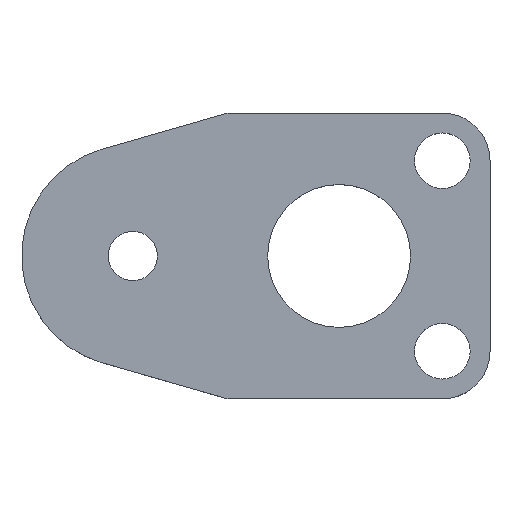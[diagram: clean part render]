
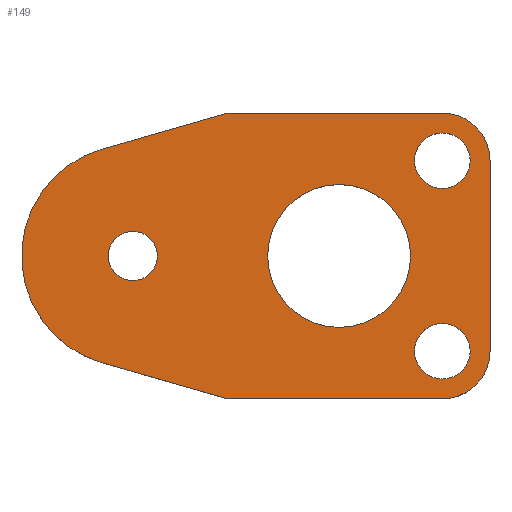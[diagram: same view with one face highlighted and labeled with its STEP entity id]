
A CAD part, top view. The second image highlights one B-rep face of the part: STEP entity #149.
In plain terms, the highlighted planar face has unit normal (0, 0, 1).
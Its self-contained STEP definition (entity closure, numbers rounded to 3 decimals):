
#102=FACE_BOUND('',#194,.T.);
#103=FACE_BOUND('',#195,.T.);
#104=FACE_BOUND('',#196,.T.);
#105=FACE_BOUND('',#197,.T.);
#106=FACE_BOUND('',#198,.T.);
#118=CIRCLE('',#438,6.);
#120=CIRCLE('',#442,6.);
#123=CIRCLE('',#448,14.);
#132=CIRCLE('',#459,3.5);
#133=CIRCLE('',#460,3.5);
#134=CIRCLE('',#461,3.5);
#135=CIRCLE('',#462,3.5);
#136=CIRCLE('',#463,9.);
#137=CIRCLE('',#464,9.);
#138=CIRCLE('',#465,3.1);
#139=CIRCLE('',#466,3.1);
#149=ADVANCED_FACE('',(#102,#103,#104,#105,#106),#164,.T.);
#164=PLANE('',#467);
#194=EDGE_LOOP('',(#255,#256,#257,#258,#259,#260,#261,#262));
#195=EDGE_LOOP('',(#263,#264));
#196=EDGE_LOOP('',(#265,#266));
#197=EDGE_LOOP('',(#267,#268));
#198=EDGE_LOOP('',(#269,#270));
#255=ORIENTED_EDGE('',*,*,#336,.T.);
#256=ORIENTED_EDGE('',*,*,#340,.T.);
#257=ORIENTED_EDGE('',*,*,#343,.T.);
#258=ORIENTED_EDGE('',*,*,#346,.T.);
#259=ORIENTED_EDGE('',*,*,#349,.T.);
#260=ORIENTED_EDGE('',*,*,#352,.T.);
#261=ORIENTED_EDGE('',*,*,#355,.T.);
#262=ORIENTED_EDGE('',*,*,#358,.T.);
#263=ORIENTED_EDGE('',*,*,#367,.T.);
#264=ORIENTED_EDGE('',*,*,#368,.T.);
#265=ORIENTED_EDGE('',*,*,#369,.T.);
#266=ORIENTED_EDGE('',*,*,#370,.T.);
#267=ORIENTED_EDGE('',*,*,#371,.T.);
#268=ORIENTED_EDGE('',*,*,#372,.T.);
#269=ORIENTED_EDGE('',*,*,#373,.T.);
#270=ORIENTED_EDGE('',*,*,#374,.T.);
#304=VERTEX_POINT('',#587);
#305=VERTEX_POINT('',#589);
#308=VERTEX_POINT('',#596);
#310=VERTEX_POINT('',#602);
#312=VERTEX_POINT('',#608);
#314=VERTEX_POINT('',#614);
#316=VERTEX_POINT('',#620);
#318=VERTEX_POINT('',#626);
#327=VERTEX_POINT('',#651);
#328=VERTEX_POINT('',#652);
#329=VERTEX_POINT('',#655);
#330=VERTEX_POINT('',#656);
#331=VERTEX_POINT('',#659);
#332=VERTEX_POINT('',#660);
#333=VERTEX_POINT('',#663);
#334=VERTEX_POINT('',#664);
#336=EDGE_CURVE('',#305,#304,#384,.T.);
#340=EDGE_CURVE('',#304,#308,#388,.T.);
#343=EDGE_CURVE('',#308,#310,#118,.T.);
#346=EDGE_CURVE('',#310,#312,#392,.T.);
#349=EDGE_CURVE('',#312,#314,#120,.T.);
#352=EDGE_CURVE('',#314,#316,#396,.T.);
#355=EDGE_CURVE('',#316,#318,#399,.T.);
#358=EDGE_CURVE('',#318,#305,#123,.T.);
#367=EDGE_CURVE('',#327,#328,#132,.T.);
#368=EDGE_CURVE('',#328,#327,#133,.T.);
#369=EDGE_CURVE('',#329,#330,#134,.T.);
#370=EDGE_CURVE('',#330,#329,#135,.T.);
#371=EDGE_CURVE('',#331,#332,#136,.T.);
#372=EDGE_CURVE('',#332,#331,#137,.T.);
#373=EDGE_CURVE('',#333,#334,#138,.T.);
#374=EDGE_CURVE('',#334,#333,#139,.T.);
#384=LINE('',#588,#410);
#388=LINE('',#597,#414);
#392=LINE('',#609,#418);
#396=LINE('',#621,#422);
#399=LINE('',#627,#425);
#410=VECTOR('',#479,1.);
#414=VECTOR('',#485,1.);
#418=VECTOR('',#497,1.);
#422=VECTOR('',#509,1.);
#425=VECTOR('',#514,1.);
#438=AXIS2_PLACEMENT_3D('',#603,#490,#491);
#442=AXIS2_PLACEMENT_3D('',#615,#502,#503);
#448=AXIS2_PLACEMENT_3D('',#631,#520,#521);
#459=AXIS2_PLACEMENT_3D('',#650,#542,#543);
#460=AXIS2_PLACEMENT_3D('',#653,#544,#545);
#461=AXIS2_PLACEMENT_3D('',#654,#546,#547);
#462=AXIS2_PLACEMENT_3D('',#657,#548,#549);
#463=AXIS2_PLACEMENT_3D('',#658,#550,#551);
#464=AXIS2_PLACEMENT_3D('',#661,#552,#553);
#465=AXIS2_PLACEMENT_3D('',#662,#554,#555);
#466=AXIS2_PLACEMENT_3D('',#665,#556,#557);
#467=AXIS2_PLACEMENT_3D('',#666,#558,#559);
#479=DIRECTION('',(0.961,-0.275,0.));
#485=DIRECTION('',(1.,0.,0.));
#490=DIRECTION('',(0.,0.,1.));
#491=DIRECTION('',(-0.707,0.707,0.));
#497=DIRECTION('',(0.,1.,0.));
#502=DIRECTION('',(0.,0.,1.));
#503=DIRECTION('',(-0.707,-0.707,0.));
#509=DIRECTION('',(-1.,0.,0.));
#514=DIRECTION('',(-0.961,-0.275,0.));
#520=DIRECTION('',(0.,0.,1.));
#521=DIRECTION('',(1.,0.,0.));
#542=DIRECTION('',(0.,0.,-1.));
#543=DIRECTION('',(-1.,0.,0.));
#544=DIRECTION('',(0.,0.,-1.));
#545=DIRECTION('',(1.,0.,0.));
#546=DIRECTION('',(0.,0.,-1.));
#547=DIRECTION('',(-1.,0.,0.));
#548=DIRECTION('',(0.,0.,-1.));
#549=DIRECTION('',(1.,0.,0.));
#550=DIRECTION('',(0.,0.,-1.));
#551=DIRECTION('',(-1.,0.,0.));
#552=DIRECTION('',(0.,0.,-1.));
#553=DIRECTION('',(1.,0.,0.));
#554=DIRECTION('',(0.,0.,-1.));
#555=DIRECTION('',(-1.,0.,0.));
#556=DIRECTION('',(0.,0.,-1.));
#557=DIRECTION('',(1.,0.,0.));
#558=DIRECTION('',(0.,0.,1.));
#559=DIRECTION('',(0.961,-0.275,0.));
#587=CARTESIAN_POINT('',(12.,-18.,5.));
#588=CARTESIAN_POINT('',(12.,-18.,5.));
#589=CARTESIAN_POINT('',(-3.855,-13.459,5.));
#596=CARTESIAN_POINT('',(39.,-18.,5.));
#597=CARTESIAN_POINT('',(12.,-18.,5.));
#602=CARTESIAN_POINT('',(45.,-12.,5.));
#603=CARTESIAN_POINT('',(39.,-12.,5.));
#608=CARTESIAN_POINT('',(45.,12.,5.));
#609=CARTESIAN_POINT('',(45.,12.,5.));
#614=CARTESIAN_POINT('',(39.,18.,5.));
#615=CARTESIAN_POINT('',(39.,12.,5.));
#620=CARTESIAN_POINT('',(12.,18.,5.));
#621=CARTESIAN_POINT('',(12.,18.,5.));
#626=CARTESIAN_POINT('',(-3.855,13.459,5.));
#627=CARTESIAN_POINT('',(12.,18.,5.));
#631=CARTESIAN_POINT('',(0.,0.,5.));
#650=CARTESIAN_POINT('',(39.,-12.,5.));
#651=CARTESIAN_POINT('',(39.,-8.5,5.));
#652=CARTESIAN_POINT('',(39.,-15.5,5.));
#653=CARTESIAN_POINT('',(39.,-12.,5.));
#654=CARTESIAN_POINT('',(39.,12.,5.));
#655=CARTESIAN_POINT('',(39.,15.5,5.));
#656=CARTESIAN_POINT('',(39.,8.5,5.));
#657=CARTESIAN_POINT('',(39.,12.,5.));
#658=CARTESIAN_POINT('',(26.,0.,5.));
#659=CARTESIAN_POINT('',(26.,9.,5.));
#660=CARTESIAN_POINT('',(26.,-9.,5.));
#661=CARTESIAN_POINT('',(26.,0.,5.));
#662=CARTESIAN_POINT('',(0.,0.,5.));
#663=CARTESIAN_POINT('',(0.,3.1,5.));
#664=CARTESIAN_POINT('',(0.,-3.1,5.));
#665=CARTESIAN_POINT('',(0.,0.,5.));
#666=CARTESIAN_POINT('',(-3.855,-13.459,5.));
